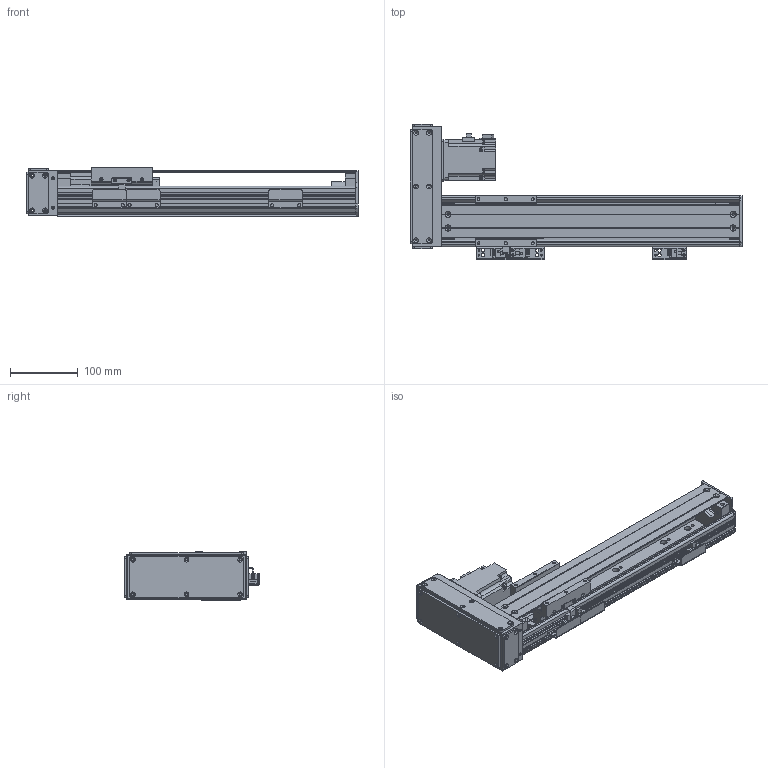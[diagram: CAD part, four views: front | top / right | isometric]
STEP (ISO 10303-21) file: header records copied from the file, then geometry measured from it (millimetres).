
FILE_DESCRIPTION(/* description */ (''),/* implementation_level */ '2;1');
FILE_NAME(/* name */ '\\192.168.0.160\disk1\HAN SHIN Master\B-설계부문\C-표준\B-2024년\BC02-표준도면\+로봇 개선표준도면\홈페이지 표준 도면\홈페이지 최종 작업 폴더\3D\HR\HR75\HR75병렬\좌병렬\HR75-L20-N1B-0250-R10.stp',/* time_stamp */ '2025-01-18T14:57:52+09:00',/* author */ ('user'),/* organization */ (''),/* preprocessor_version */ 'ST-DEVELOPER v18.1',/* originating_system */ 'Autodesk Inventor 2022',/* authorisation */ '');
FILE_SCHEMA (('CONFIG_CONTROL_DESIGN'));
Products named in the file (23): HG75-L20-N1B-0500-R10 - 간소화; BASE; HR75 FRONT BLOCK; HR75 REAR COVER-TENTION; HR75 TENSION REAR BLOCK; HG3UPCOV001; H 15F_BLOCK; HR65,75 SENSOR DOG; HG90STOPPER - 20L; HG90STOPPER - 27L; MOTOR PLATE-200W(MITSUBISHI); HC75-LR-MOTOR PLATE(200W)-사출; 화살표; HR75-LR-BELT COVER(200W); HR75-BELT COVER-COVER2; HR75-BELT COVER-COVER; hg-kr23_; HR65-BELT COVER-COVER3; M-5HL-4; HR75 W TABLE; LMKE1520 NUT; SENSOR BRK(EE-SX674A); EE_SX674A
Assembly tree (28 placements, depth 2):
  HG75-L20-N1B-0500-R10 - 간소화
    BASE
    HR75 FRONT BLOCK
    HR75 REAR COVER-TENTION
    SENSOR BRK(EE-SX674A)  x3
    EE_SX674A  x3
    HR75 TENSION REAR BLOCK
    HG3UPCOV001
    H 15F_BLOCK
    HR65,75 SENSOR DOG
    HG90STOPPER - 20L
    HG90STOPPER - 27L
    MOTOR PLATE-200W(MITSUBISHI)
    HC75-LR-MOTOR PLATE(200W)-사출
    화살표  x2
    HR75-LR-BELT COVER(200W)
    HR75-BELT COVER-COVER2
    HR75-BELT COVER-COVER
    HR65-BELT COVER-COVER3  x2
    hg-kr23_
    M-5HL-4
    HR75 W TABLE
    LMKE1520 NUT
Bounding box: 489 x 199 x 73 mm (x, y, z)
Volume: 1192073.7 mm3; surface area: 509717.1 mm2
Topology: 28 solids, 28 shells, 2908 faces, 8015 edges, 5297 vertices
Faces by surface type: plane 2179, cylinder 614, cone 107, sphere 8
Full cylindrical faces by diameter (mm): 1.8 x1, 2 x4, 2.013 x2, 2.459 x16, 2.5 x2, 3 x8, 3.242 x46, 3.4 x20, 3.5 x6, 4.134 x44, 4.5 x22, 4.917 x5, 5 x31, 5.5 x28, 5.6 x8, 5.8 x4, 5.9 x8, 6 x4, 6.5 x1, 7 x1, 8 x1, 9.5 x24, 14 x1, 15 x3, 17 x1, 20 x1, 25 x2, 28 x1, 32 x2, 33.7 x1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
Entity records: 87885 total; most frequent: CARTESIAN_POINT 15876, ORIENTED_EDGE 14914, DIRECTION 14156, EDGE_CURVE 7457, LINE 6162, VECTOR 6162, VERTEX_POINT 4965, AXIS2_PLACEMENT_3D 3997
